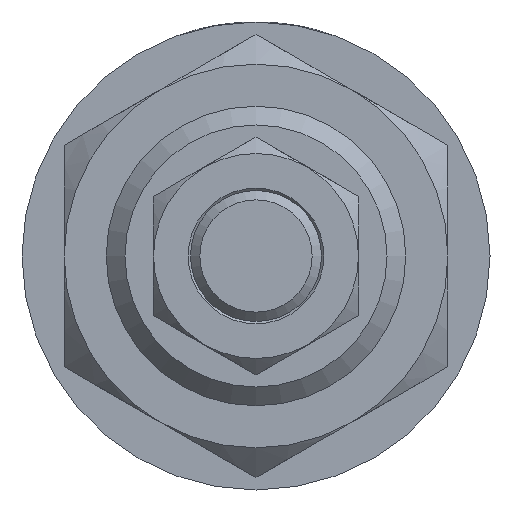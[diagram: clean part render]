
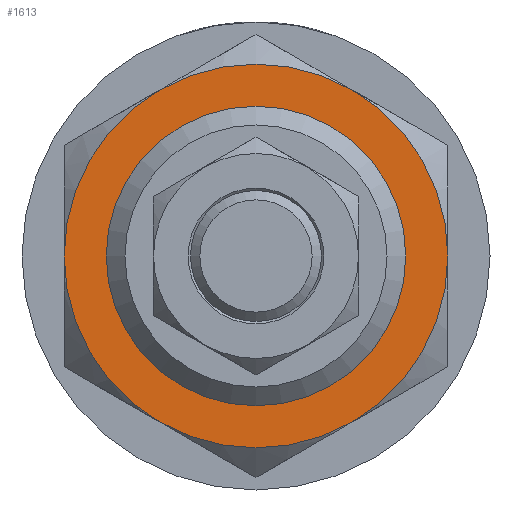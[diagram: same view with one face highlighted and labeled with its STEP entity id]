
A CAD part, front view. The second image highlights one B-rep face of the part: STEP entity #1613.
In plain terms, the highlighted planar face has unit normal (0, -1, 0).
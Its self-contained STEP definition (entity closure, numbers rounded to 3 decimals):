
#175=PLANE('',#1771);
#226=CIRCLE('',#1772,16.);
#227=CIRCLE('',#1773,20.5);
#228=CIRCLE('',#1774,20.5);
#229=CIRCLE('',#1775,20.5);
#230=CIRCLE('',#1776,20.5);
#231=CIRCLE('',#1777,20.5);
#232=CIRCLE('',#1778,20.5);
#435=ORIENTED_EDGE('',*,*,#601,.T.);
#436=ORIENTED_EDGE('',*,*,#602,.T.);
#437=ORIENTED_EDGE('',*,*,#603,.T.);
#438=ORIENTED_EDGE('',*,*,#604,.T.);
#439=ORIENTED_EDGE('',*,*,#605,.T.);
#440=ORIENTED_EDGE('',*,*,#606,.T.);
#441=ORIENTED_EDGE('',*,*,#607,.T.);
#601=EDGE_CURVE('',#706,#706,#226,.T.);
#602=EDGE_CURVE('',#683,#688,#227,.F.);
#603=EDGE_CURVE('',#688,#704,#228,.F.);
#604=EDGE_CURVE('',#704,#701,#229,.F.);
#605=EDGE_CURVE('',#701,#697,#230,.F.);
#606=EDGE_CURVE('',#697,#693,#231,.F.);
#607=EDGE_CURVE('',#693,#683,#232,.F.);
#683=VERTEX_POINT('',#2483);
#688=VERTEX_POINT('',#2504);
#693=VERTEX_POINT('',#2523);
#697=VERTEX_POINT('',#2542);
#701=VERTEX_POINT('',#2561);
#704=VERTEX_POINT('',#2578);
#706=VERTEX_POINT('',#2589);
#841=EDGE_LOOP('',(#435));
#842=EDGE_LOOP('',(#436,#437,#438,#439,#440,#441));
#965=FACE_BOUND('',#841,.T.);
#966=FACE_BOUND('',#842,.T.);
#1613=ADVANCED_FACE('',(#965,#966),#175,.F.);
#1771=AXIS2_PLACEMENT_3D('',#2587,#2068,#2069);
#1772=AXIS2_PLACEMENT_3D('',#2588,#2070,#2071);
#1773=AXIS2_PLACEMENT_3D('',#2590,#2072,#2073);
#1774=AXIS2_PLACEMENT_3D('',#2591,#2074,#2075);
#1775=AXIS2_PLACEMENT_3D('',#2592,#2076,#2077);
#1776=AXIS2_PLACEMENT_3D('',#2593,#2078,#2079);
#1777=AXIS2_PLACEMENT_3D('',#2594,#2080,#2081);
#1778=AXIS2_PLACEMENT_3D('',#2595,#2082,#2083);
#2068=DIRECTION('',(0.,1.,0.));
#2069=DIRECTION('',(0.,0.,1.));
#2070=DIRECTION('',(0.,1.,0.));
#2071=DIRECTION('',(0.,0.,1.));
#2072=DIRECTION('',(0.,1.,0.));
#2073=DIRECTION('',(0.,0.,1.));
#2074=DIRECTION('',(0.,1.,0.));
#2075=DIRECTION('',(0.,0.,1.));
#2076=DIRECTION('',(0.,1.,0.));
#2077=DIRECTION('',(0.,0.,1.));
#2078=DIRECTION('',(0.,1.,0.));
#2079=DIRECTION('',(0.,0.,1.));
#2080=DIRECTION('',(0.,1.,0.));
#2081=DIRECTION('',(0.,0.,1.));
#2082=DIRECTION('',(0.,1.,0.));
#2083=DIRECTION('',(0.,0.,1.));
#2483=CARTESIAN_POINT('',(10.25,-10.,17.754));
#2504=CARTESIAN_POINT('',(-10.25,-10.,17.754));
#2523=CARTESIAN_POINT('',(20.5,-10.,0.));
#2542=CARTESIAN_POINT('',(10.25,-10.,-17.754));
#2561=CARTESIAN_POINT('',(-10.25,-10.,-17.754));
#2578=CARTESIAN_POINT('',(-20.5,-10.,0.));
#2587=CARTESIAN_POINT('',(0.,-10.,0.));
#2588=CARTESIAN_POINT('',(0.,-10.,0.));
#2589=CARTESIAN_POINT('',(0.,-10.,16.));
#2590=CARTESIAN_POINT('',(0.,-10.,0.));
#2591=CARTESIAN_POINT('',(0.,-10.,0.));
#2592=CARTESIAN_POINT('',(0.,-10.,0.));
#2593=CARTESIAN_POINT('',(0.,-10.,0.));
#2594=CARTESIAN_POINT('',(0.,-10.,0.));
#2595=CARTESIAN_POINT('',(0.,-10.,0.));
